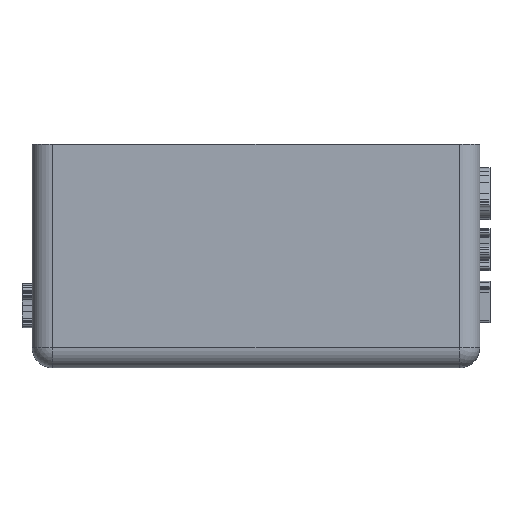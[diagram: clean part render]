
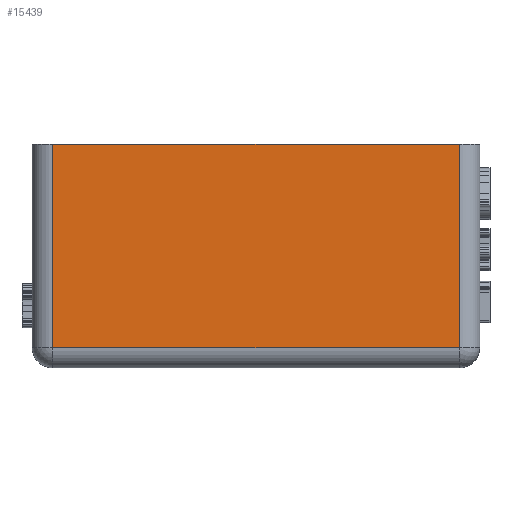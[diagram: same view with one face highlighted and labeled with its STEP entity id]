
A CAD part, front view. The second image highlights one B-rep face of the part: STEP entity #15439.
In plain terms, the highlighted planar face has unit normal (0, -1, 0).
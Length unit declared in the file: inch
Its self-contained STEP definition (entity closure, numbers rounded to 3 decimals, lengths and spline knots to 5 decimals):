
#3149=FACE_OUTER_BOUND('',#4013,.T.);
#4013=EDGE_LOOP('',(#14130,#14131,#14132,#14133));
#4869=LINE('',#34022,#5746);
#4897=LINE('',#34110,#5774);
#4899=LINE('',#34113,#5776);
#4902=LINE('',#34118,#5779);
#5746=VECTOR('',#16554,0.3937);
#5774=VECTOR('',#16644,0.3937);
#5776=VECTOR('',#16648,0.3937);
#5779=VECTOR('',#16655,0.3937);
#7340=VERTEX_POINT('',#34019);
#7341=VERTEX_POINT('',#34021);
#7362=VERTEX_POINT('',#34075);
#7367=VERTEX_POINT('',#34091);
#9700=EDGE_CURVE('',#7340,#7341,#4869,.T.);
#9745=EDGE_CURVE('',#7362,#7367,#4897,.T.);
#9747=EDGE_CURVE('',#7367,#7340,#4899,.T.);
#9750=EDGE_CURVE('',#7341,#7362,#4902,.T.);
#14130=ORIENTED_EDGE('',*,*,#9747,.F.);
#14131=ORIENTED_EDGE('',*,*,#9745,.F.);
#14132=ORIENTED_EDGE('',*,*,#9750,.F.);
#14133=ORIENTED_EDGE('',*,*,#9700,.F.);
#14601=PLANE('',#15567);
#15439=ADVANCED_FACE('',(#3149),#14601,.T.);
#15567=AXIS2_PLACEMENT_3D('',#34120,#16657,#16658);
#16554=DIRECTION('',(1.,0.,0.));
#16644=DIRECTION('',(-1.,0.,0.));
#16648=DIRECTION('',(0.,0.,1.));
#16655=DIRECTION('',(0.,0.,-1.));
#16657=DIRECTION('center_axis',(0.,-1.,0.));
#16658=DIRECTION('ref_axis',(1.,0.,0.));
#34019=CARTESIAN_POINT('',(-1.,-1.1,1.1));
#34021=CARTESIAN_POINT('',(1.,-1.1,1.1));
#34022=CARTESIAN_POINT('',(-1.1,-1.1,1.1));
#34075=CARTESIAN_POINT('',(1.,-1.1,0.1));
#34091=CARTESIAN_POINT('',(-1.,-1.1,0.1));
#34110=CARTESIAN_POINT('',(-0.55,-1.1,0.1));
#34113=CARTESIAN_POINT('',(-1.,-1.1,0.));
#34118=CARTESIAN_POINT('',(1.,-1.1,0.));
#34120=CARTESIAN_POINT('Origin',(-1.1,-1.1,0.));
